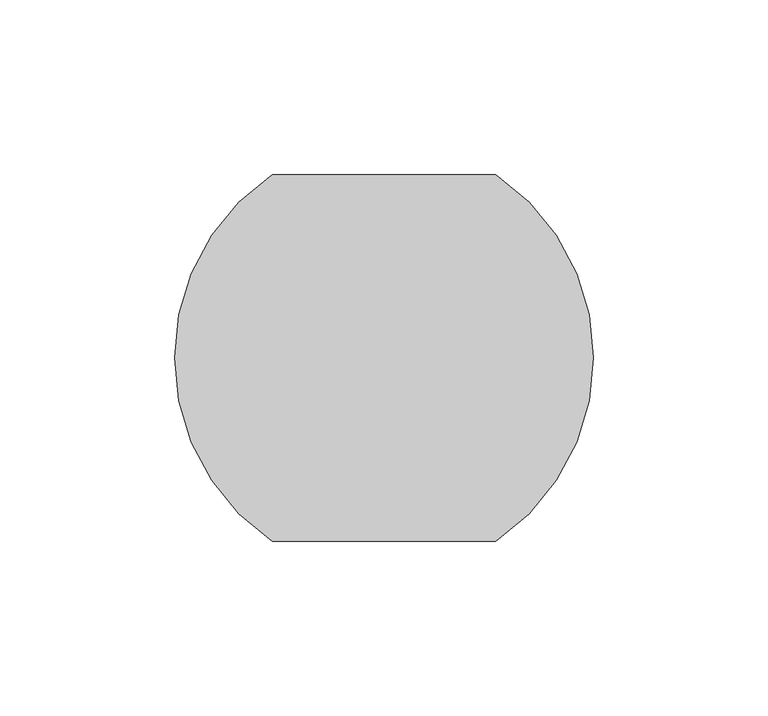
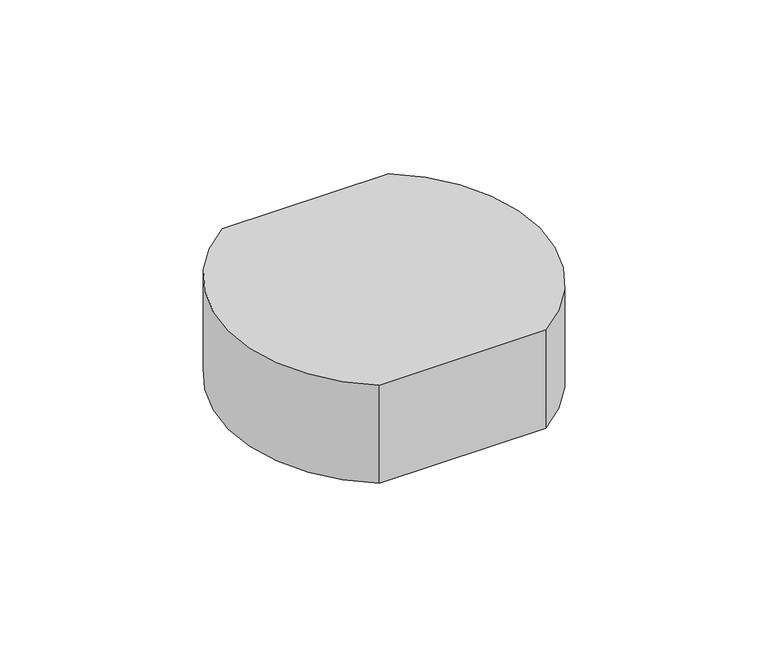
"""IFC4 building model written with IfcOpenShell, lengths in millimetres: proxy geometry, Environmentální detektory.CC : EI208W Horizontální."""

from ifc_helpers import new_model, si_unit, point, frame, frame_2d, origin, place, context, project, spatial, polyline, circle_curve, trimmed, segment, composite_curve, outline, extrude, source, transform, mapped, element, save


def security_devices_6400f2da(model_context):
    return source(origin(), model_context, "Body", "SweptSolid", [
        extrude(outline(composite_curve([segment(polyline([(32.0644585, -52.5), (-32.0644585, -52.5)]), True, "CONTINUOUS"), segment(trimmed(circle_curve(frame_2d((3.3000882, 0.0)), 63.3000882), [point((-32.0644585, -52.5))], [point((-32.0644585, 52.5))], False, "CARTESIAN"), True, "CONTINUOUS"), segment(polyline([(-32.0644585, 52.5), (32.0644585, 52.5)]), True, "CONTINUOUS"), segment(trimmed(circle_curve(frame_2d((-3.3000882, 0.0)), 63.3000882), [point((32.0644585, 52.5))], [point((32.0644585, -52.5))], False, "CARTESIAN"), True, "CONTINUOUS")], self_intersect=False)), frame((0.0, 0.0, -40.0), z_axis=(0.0, 0.0, 1.0), x_axis=(1.0, 0.0, 0.0)), (0.0, 0.0, 1.0), 40.0),
    ])


if __name__ == "__main__":
    model = new_model("IFC4")
    model_context = context("Model", 3, world=origin())
    ifc_project = project(units=[si_unit("LENGTHUNIT", "METRE", prefix="MILLI")], contexts=[model_context])
    site = spatial("IfcSite", under=ifc_project)
    building = spatial("IfcBuilding", under=site)
    placement = place(None, origin())
    security_devices_shape = security_devices_6400f2da(model_context)
    element("IfcBuildingElementProxy", 1, Name="Environmentální detektory.CC : EI208W Horizontální", ObjectType="Environmentální detektory.CC : EI208W Horizontální", at=placement, inside=building, context=model_context, shape_type="MappedRepresentation", body=[
        mapped(security_devices_shape, transform((0.0, 0.0, 0.0), x_axis=(1.0, 0.0, 0.0), y_axis=(0.0, 1.0, 0.0), z_axis=(0.0, 0.0, 1.0))),
    ])
    save(model, "model.ifc")
